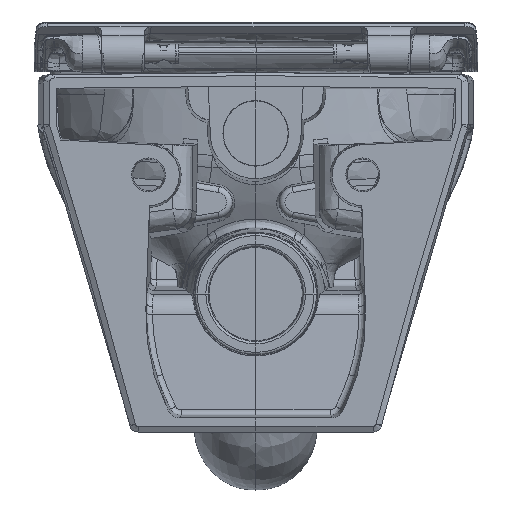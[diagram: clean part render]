
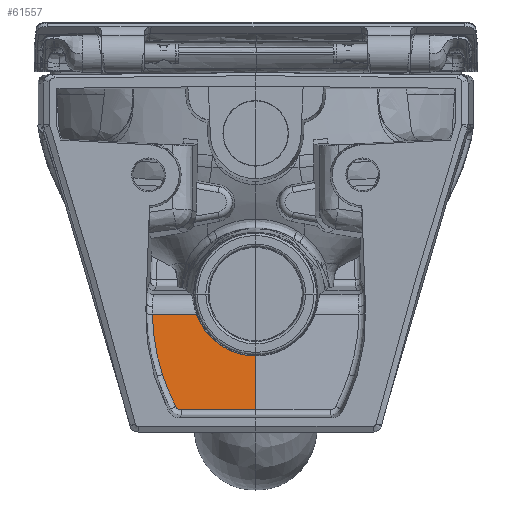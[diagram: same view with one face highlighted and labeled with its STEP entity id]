
A CAD part, left-side view. The second image highlights one B-rep face of the part: STEP entity #61557.
In plain terms, the highlighted planar face has unit normal (-0.996, 0, 0.087).
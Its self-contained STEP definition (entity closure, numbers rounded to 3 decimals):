
#50698=CARTESIAN_POINT('',(66.153,62.69,-281.297));
#50699=VERTEX_POINT('',#50698);
#50700=CARTESIAN_POINT('',(66.153,0.,-281.297));
#50701=VERTEX_POINT('',#50700);
#50702=CARTESIAN_POINT('',(66.153,62.69,-281.297));
#50703=DIRECTION('',(0.,-1.,0.));
#50704=VECTOR('',#50703,62.69);
#50705=LINE('',#50702,#50704);
#50706=EDGE_CURVE('',#50699,#50701,#50705,.T.);
#50788=CARTESIAN_POINT('',(66.392,67.137,-278.56));
#50789=VERTEX_POINT('',#50788);
#50799=CARTESIAN_POINT('',(66.392,67.137,-278.56));
#50800=CARTESIAN_POINT('',(66.306,66.641,-279.54));
#50801=CARTESIAN_POINT('',(66.232,65.876,-280.384));
#50802=CARTESIAN_POINT('',(66.179,64.89,-280.993));
#50803=CARTESIAN_POINT('',(66.153,63.79,-281.297));
#50804=CARTESIAN_POINT('',(66.153,62.69,-281.297));
#50805=B_SPLINE_CURVE_WITH_KNOTS('',5,(#50799,#50800,#50801,#50802,#50803,#50804),.UNSPECIFIED.,.F.,.U.,(6,6),(2.291,11.284),.UNSPECIFIED.);
#50806=EDGE_CURVE('',#50789,#50699,#50805,.T.);
#50866=CARTESIAN_POINT('',(68.736,78.279,-251.772));
#50867=VERTEX_POINT('',#50866);
#50877=CARTESIAN_POINT('',(74.105,-107.017,-190.402));
#50878=DIRECTION('',(-0.996,0.,0.087));
#50879=DIRECTION('',(0.087,-0.011,0.996));
#50880=AXIS2_PLACEMENT_3D('',#50877,#50878,#50879);
#50881=ELLIPSE('',#50880,195.936,195.19);
#50882=EDGE_CURVE('',#50867,#50789,#50881,.T.);
#50952=CARTESIAN_POINT('',(73.182,86.787,-200.955));
#50953=VERTEX_POINT('',#50952);
#51031=CARTESIAN_POINT('',(73.431,-79.545,-198.102));
#51032=DIRECTION('',(-0.996,0.,0.087));
#51033=DIRECTION('',(0.085,-0.197,0.977));
#51034=AXIS2_PLACEMENT_3D('',#51031,#51032,#51033);
#51035=ELLIPSE('',#51034,168.266,166.267);
#51036=EDGE_CURVE('',#50953,#50867,#51035,.T.);
#61517=CARTESIAN_POINT('',(63.455,0.,-312.135));
#61518=DIRECTION('',(-0.996,0.,0.087));
#61519=DIRECTION('',(0.087,0.,0.996));
#61520=AXIS2_PLACEMENT_3D('',#61517,#61518,#61519);
#61521=PLANE('',#61520);
#61522=CARTESIAN_POINT('',(70.101,0.,-236.167));
#61523=VERTEX_POINT('',#61522);
#61524=CARTESIAN_POINT('',(66.153,0.,-281.297));
#61525=DIRECTION('',(0.087,0.,0.996));
#61526=VECTOR('',#61525,45.302);
#61527=LINE('',#61524,#61526);
#61528=EDGE_CURVE('',#50701,#61523,#61527,.T.);
#61529=ORIENTED_EDGE('',*,*,#61528,.T.);
#61530=CARTESIAN_POINT('',(73.182,49.808,-200.955));
#61531=VERTEX_POINT('',#61530);
#61532=CARTESIAN_POINT('',(73.182,49.808,-200.955));
#61533=CARTESIAN_POINT('',(72.734,48.012,-206.071));
#61534=CARTESIAN_POINT('',(72.313,45.427,-210.88));
#61535=CARTESIAN_POINT('',(71.556,38.882,-219.535));
#61536=CARTESIAN_POINT('',(71.224,34.958,-223.333));
#61537=CARTESIAN_POINT('',(70.675,26.091,-229.601));
#61538=CARTESIAN_POINT('',(70.462,21.197,-232.036));
#61539=CARTESIAN_POINT('',(70.174,10.838,-235.328));
#61540=CARTESIAN_POINT('',(70.101,5.436,-236.166));
#61541=CARTESIAN_POINT('',(70.101,0.,-236.167));
#61542=B_SPLINE_CURVE_WITH_KNOTS('',3,(#61532,#61533,#61534,#61535,#61536,#61537,#61538,#61539,#61540,#61541),.UNSPECIFIED.,.F.,.U.,(4,2,2,2,4),(-6.525,-4.893,-3.262,-1.631,0.),.UNSPECIFIED.);
#61543=EDGE_CURVE('',#61531,#61523,#61542,.T.);
#61544=ORIENTED_EDGE('',*,*,#61543,.F.);
#61545=CARTESIAN_POINT('',(73.182,49.808,-200.955));
#61546=DIRECTION('',(0.,1.,0.));
#61547=VECTOR('',#61546,36.979);
#61548=LINE('',#61545,#61547);
#61549=EDGE_CURVE('',#61531,#50953,#61548,.T.);
#61550=ORIENTED_EDGE('',*,*,#61549,.T.);
#61551=ORIENTED_EDGE('',*,*,#51036,.T.);
#61552=ORIENTED_EDGE('',*,*,#50882,.T.);
#61553=ORIENTED_EDGE('',*,*,#50806,.T.);
#61554=ORIENTED_EDGE('',*,*,#50706,.T.);
#61555=EDGE_LOOP('',(#61529,#61544,#61550,#61551,#61552,#61553,#61554));
#61556=FACE_OUTER_BOUND('',#61555,.T.);
#61557=ADVANCED_FACE('',(#61556),#61521,.T.);
